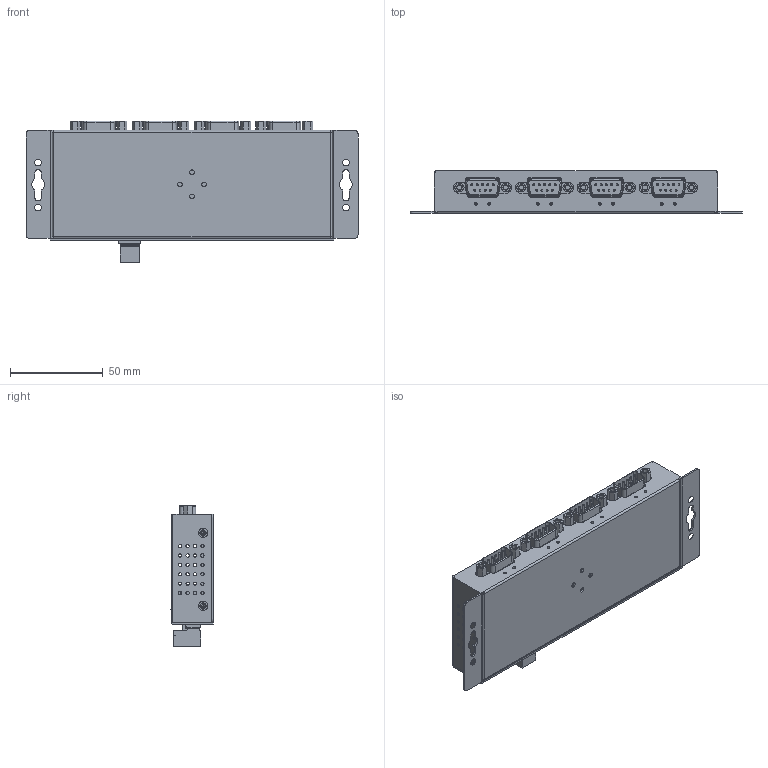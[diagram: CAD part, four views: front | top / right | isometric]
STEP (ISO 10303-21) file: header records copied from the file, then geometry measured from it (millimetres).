
FILE_DESCRIPTION(/* description */ (''),/* implementation_level */ '2;1');
FILE_NAME(/* name */ 'C:/Users/Leo/Desktop/AA CoolGear CADs/MSD-SRP4XM-PRO/MSD-SRP4XM-PRO Model3D LPV1.step',/* time_stamp */ '2021-07-09T11:49:59-04:00',/* author */ (''),/* organization */ (''),/* preprocessor_version */ 'ST-DEVELOPER v18.1',/* originating_system */ 'Autodesk Translation Framework v10.9.0.1377',/* authorisation */ '');
FILE_SCHEMA (('AUTOMOTIVE_DESIGN { 1 0 10303 214 3 1 1 }'));
Products named in the file (24): USBG-4NET; Component1; 93090A571; Component4; LAN connector v1; HR911105A; Connector Volts Black plastic v2; Component1 (1); Component2; Component3 (1); Component4 (1); Connector green Phoenix 2 holes female 5.08 v1; Bolt M3X0.5 100Angle 5mmHead.5 China 120ang METRIC 18-8 SS FLAT HEAD 
PHIL MACHINE SCREW v2; LED 3mm v4 (1); 3mm_LED (1); led_energy (1) (1); led_energy (2); led_pin.1.1.1 (1) (1); led_pin.1.1.1 (2); led_pin.2.1 (1) (1); led_pin.2.1 (2); Connector green phoenix 2pines male 5.08 v6; Serial Port v1; Component53
Assembly tree (32 placements, depth 5):
  USBG-4NET
    Component1
    93090A571  x4
    Component4
    LAN connector v1
      HR911105A
    Connector Volts Black plastic v2
      Component1 (1)
      Component2
      Component3 (1)
      Component4 (1)
    Connector green Phoenix 2 holes female 5.08 v1
    Bolt M3X0.5 100Angle 5mmHead.5 China 120ang METRIC 18-8 SS FLAT HEAD 
PHIL MACHINE SCREW v2  x4
    LED 3mm v4 (1)
      3mm_LED (1)
        led_energy (1) (1)
          led_energy (2)
        led_pin.1.1.1 (1) (1)
          led_pin.1.1.1 (2)
        led_pin.2.1 (1) (1)
          led_pin.2.1 (2)
    Connector green phoenix 2pines male 5.08 v6
    Serial Port v1  x4
    Component53
Bounding box: 178.75 x 23.06 x 76.27 mm (x, y, z)
Volume: 61877.8 mm3; surface area: 87842.8 mm2
Topology: 4 solids, 4 shells, 2252 faces, 6015 edges, 3916 vertices
Faces by surface type: plane 1461, cylinder 493, cone 120, bspline 97, torus 42, sphere 39
Full cylindrical faces by diameter (mm): 0.8 x8, 1 x40, 1.5 x8, 1.6 x2, 1.679 x1, 1.75 x48, 2.16 x1, 2.35 x16, 2.529 x4, 2.6 x8, 2.8 x8, 2.998 x1, 3 x24, 3.2 x4, 3.35 x1, 3.54 x1, 3.643 x1, 3.86 x2, 4.2 x4, 5.04 x2, 6 x1, 8.5 x1
Entity records: 86493 total; most frequent: CARTESIAN_POINT 29836, ORIENTED_EDGE 11900, DIRECTION 10923, EDGE_CURVE 5950, LINE 4251, VECTOR 4251, VERTEX_POINT 3916, AXIS2_PLACEMENT_3D 3336
